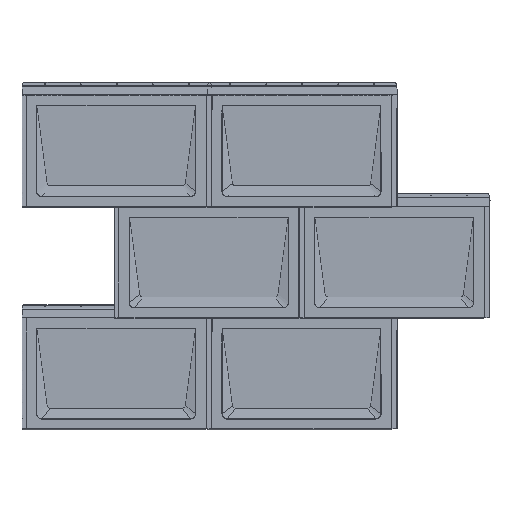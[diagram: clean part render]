
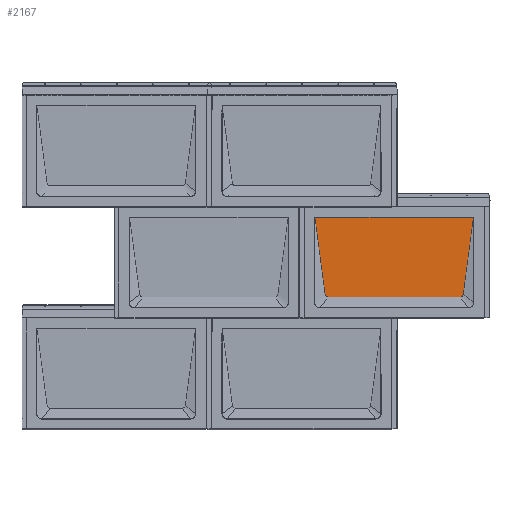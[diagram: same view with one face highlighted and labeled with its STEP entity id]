
A CAD part, top view. The second image highlights one B-rep face of the part: STEP entity #2167.
In plain terms, the highlighted planar face has unit normal (0, -0.006, 1).
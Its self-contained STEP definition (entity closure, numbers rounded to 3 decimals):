
#993=B_SPLINE_CURVE_WITH_KNOTS('',3,(#18215,#18216,#18217,#18218,#18219,
#18220,#18221,#18222,#18223,#18224,#18225,#18226,#18227,#18228,#18229),
 .UNSPECIFIED.,.F.,.F.,(4,1,1,1,1,1,1,1,1,1,1,1,4),(-29.484,-27.378,
-25.272,-16.848,-8.424,-4.212,
-3.159,-2.106,-1.58,-1.053,
-0.79,-0.527,0.),.UNSPECIFIED.);
#994=B_SPLINE_CURVE_WITH_KNOTS('',3,(#18230,#18231,#18232,#18233,#18234,
#18235),.UNSPECIFIED.,.F.,.F.,(4,1,1,4),(-31.202,-30.711,
-30.221,-29.484),.UNSPECIFIED.);
#995=B_SPLINE_CURVE_WITH_KNOTS('',3,(#18236,#18237,#18238,#18239,#18240,
#18241,#18242,#18243,#18244,#18245),.UNSPECIFIED.,.F.,.F.,(4,1,1,1,1,1,
1,4),(-81.106,-75.759,-73.977,-66.848,
-52.59,-38.331,-34.767,-31.202),
 .UNSPECIFIED.);
#996=B_SPLINE_CURVE_WITH_KNOTS('',3,(#18246,#18247,#18248,#18249,#18250,
#18251),.UNSPECIFIED.,.F.,.F.,(4,1,1,4),(-82.824,-82.334,
-81.843,-81.106),.UNSPECIFIED.);
#997=B_SPLINE_CURVE_WITH_KNOTS('',3,(#18252,#18253,#18254,#18255,#18256,
#18257,#18258,#18259,#18260,#18261,#18262,#18263,#18264,#18265,#18266),
 .UNSPECIFIED.,.F.,.F.,(4,1,1,1,1,1,1,1,1,1,1,1,4),(-112.309,-112.045,
-111.782,-111.256,-110.203,-109.15,
-108.097,-103.885,-99.673,-91.249,
-87.036,-84.93,-82.824),.UNSPECIFIED.);
#998=B_SPLINE_CURVE_WITH_KNOTS('',1,(#18267,#18268),.UNSPECIFIED.,.F.,.F.,
(2,2),(-600.348,0.),.UNSPECIFIED.);
#1168=PLANE('',#6611);
#2167=ADVANCED_FACE('',(#2419),#1168,.T.);
#2419=FACE_OUTER_BOUND('',#2702,.T.);
#2702=EDGE_LOOP('',(#3776,#3777,#3778,#3779,#3780,#3781));
#3776=ORIENTED_EDGE('',*,*,#4944,.F.);
#3777=ORIENTED_EDGE('',*,*,#4945,.F.);
#3778=ORIENTED_EDGE('',*,*,#4940,.F.);
#3779=ORIENTED_EDGE('',*,*,#4941,.F.);
#3780=ORIENTED_EDGE('',*,*,#4942,.F.);
#3781=ORIENTED_EDGE('',*,*,#4943,.F.);
#4940=EDGE_CURVE('',#6346,#6344,#993,.T.);
#4941=EDGE_CURVE('',#6347,#6346,#994,.T.);
#4942=EDGE_CURVE('',#6348,#6347,#995,.T.);
#4943=EDGE_CURVE('',#6349,#6348,#996,.T.);
#4944=EDGE_CURVE('',#6345,#6349,#997,.T.);
#4945=EDGE_CURVE('',#6344,#6345,#998,.T.);
#6344=VERTEX_POINT('',#18209);
#6345=VERTEX_POINT('',#18210);
#6346=VERTEX_POINT('',#18211);
#6347=VERTEX_POINT('',#18212);
#6348=VERTEX_POINT('',#18213);
#6349=VERTEX_POINT('',#18214);
#6611=AXIS2_PLACEMENT_3D('',#18208,#6687,$);
#6687=DIRECTION('',(0.,-0.006,1.));
#18208=CARTESIAN_POINT('',(718.059,188.217,2.266));
#18209=CARTESIAN_POINT('',(57.556,157.838,2.071));
#18210=CARTESIAN_POINT('',(657.905,157.838,2.071));
#18211=CARTESIAN_POINT('',(96.375,-134.322,0.204));
#18212=CARTESIAN_POINT('',(108.21,-144.723,0.138));
#18213=CARTESIAN_POINT('',(607.251,-144.723,0.138));
#18214=CARTESIAN_POINT('',(619.086,-134.322,0.204));
#18215=CARTESIAN_POINT('',(96.375,-134.322,0.204));
#18216=CARTESIAN_POINT('',(95.455,-127.354,0.249));
#18217=CARTESIAN_POINT('',(93.618,-113.444,0.338));
#18218=CARTESIAN_POINT('',(88.103,-71.682,0.605));
#18219=CARTESIAN_POINT('',(79.834,-9.054,1.005));
#18220=CARTESIAN_POINT('',(70.644,60.546,1.449));
#18221=CARTESIAN_POINT('',(64.673,105.778,1.739));
#18222=CARTESIAN_POINT('',(61.914,126.675,1.872));
#18223=CARTESIAN_POINT('',(60.773,135.351,1.928));
#18224=CARTESIAN_POINT('',(59.846,142.341,1.972));
#18225=CARTESIAN_POINT('',(59.281,146.739,2.));
#18226=CARTESIAN_POINT('',(58.792,150.204,2.022));
#18227=CARTESIAN_POINT('',(58.212,153.549,2.044));
#18228=CARTESIAN_POINT('',(57.788,156.086,2.06));
#18229=CARTESIAN_POINT('',(57.556,157.838,2.071));
#18230=CARTESIAN_POINT('',(108.21,-144.723,0.138));
#18231=CARTESIAN_POINT('',(106.572,-144.723,0.138));
#18232=CARTESIAN_POINT('',(103.303,-144.024,0.142));
#18233=CARTESIAN_POINT('',(98.535,-140.629,0.164));
#18234=CARTESIAN_POINT('',(96.696,-136.758,0.189));
#18235=CARTESIAN_POINT('',(96.375,-134.322,0.204));
#18236=CARTESIAN_POINT('',(607.251,-144.723,0.138));
#18237=CARTESIAN_POINT('',(589.408,-144.723,0.138));
#18238=CARTESIAN_POINT('',(565.676,-144.723,0.138));
#18239=CARTESIAN_POINT('',(518.133,-144.723,0.138));
#18240=CARTESIAN_POINT('',(440.905,-144.723,0.138));
#18241=CARTESIAN_POINT('',(322.084,-144.723,0.138));
#18242=CARTESIAN_POINT('',(215.149,-144.723,0.138));
#18243=CARTESIAN_POINT('',(143.851,-144.723,0.138));
#18244=CARTESIAN_POINT('',(120.105,-144.723,0.138));
#18245=CARTESIAN_POINT('',(108.21,-144.723,0.138));
#18246=CARTESIAN_POINT('',(619.086,-134.322,0.204));
#18247=CARTESIAN_POINT('',(618.872,-135.946,0.194));
#18248=CARTESIAN_POINT('',(617.758,-139.097,0.174));
#18249=CARTESIAN_POINT('',(613.784,-143.393,0.146));
#18250=CARTESIAN_POINT('',(609.708,-144.723,0.138));
#18251=CARTESIAN_POINT('',(607.251,-144.723,0.138));
#18252=CARTESIAN_POINT('',(657.905,157.838,2.071));
#18253=CARTESIAN_POINT('',(657.789,156.962,2.066));
#18254=CARTESIAN_POINT('',(657.51,155.258,2.055));
#18255=CARTESIAN_POINT('',(656.862,151.999,2.034));
#18256=CARTESIAN_POINT('',(656.085,145.841,1.995));
#18257=CARTESIAN_POINT('',(654.915,137.086,1.939));
#18258=CARTESIAN_POINT('',(653.548,126.674,1.872));
#18259=CARTESIAN_POINT('',(650.787,105.778,1.739));
#18260=CARTESIAN_POINT('',(646.655,74.463,1.538));
#18261=CARTESIAN_POINT('',(639.303,18.789,1.183));
#18262=CARTESIAN_POINT('',(631.951,-36.892,0.827));
#18263=CARTESIAN_POINT('',(625.519,-85.602,0.516));
#18264=CARTESIAN_POINT('',(621.843,-113.445,0.338));
#18265=CARTESIAN_POINT('',(620.006,-127.354,0.249));
#18266=CARTESIAN_POINT('',(619.086,-134.322,0.204));
#18267=CARTESIAN_POINT('',(57.556,157.838,2.071));
#18268=CARTESIAN_POINT('',(657.905,157.838,2.071));
